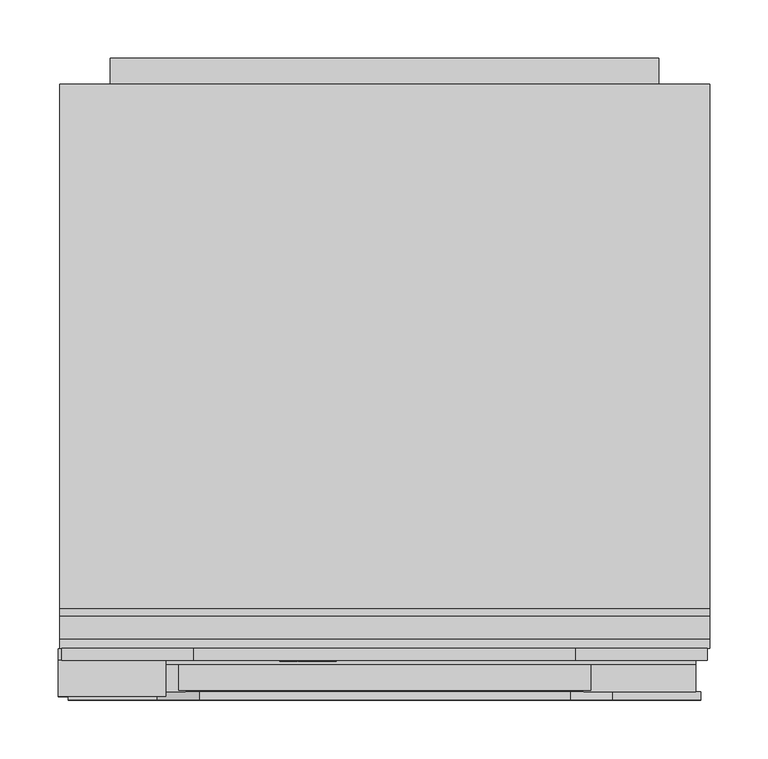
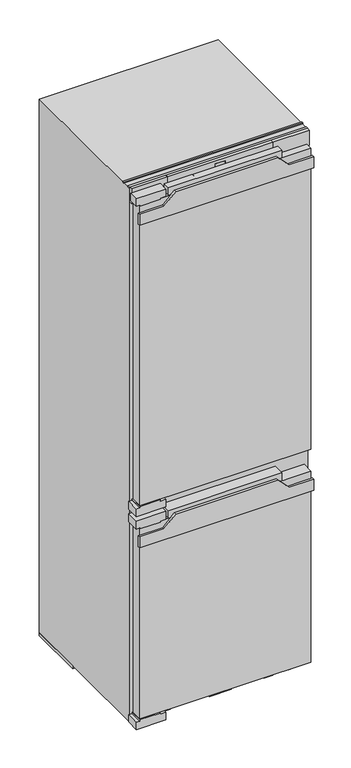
"""IFC4 building model written with IfcOpenShell, lengths in millimetres: proxy geometry, 11782010_CH_KFN7734D_LI : 38773410_CH_11782010_KFN7734D_LI."""

from ifc_helpers import new_model, si_unit, point, frame, frame_2d, origin, origin_with_axes, place, context, project, spatial, polyline, circle_curve, ellipse_curve, trimmed, segment, composite_curve, outline, extrude, faceted_brep, source, transform, mapped, element, save
from ifc_brep_helpers import plane_surface, cylinder_surface, revolved_surface, extruded_surface, advanced_brep


def specialty_equipment_14b27e45(model_context):
    return source(origin(), model_context, "Body", "SolidModel", [
        advanced_brep(
        [(-46.64, 33.0, 1742.896), (-46.64, 33.0, 1743.704), (-41.288, 33.0, 1743.704), (-50.6, 33.0, 1743.704), (-48.4, 33.0, 1741.0), (-41.424, 33.0, 1742.896), (-43.84, 33.0, 1742.896), (-45.744, 33.0, 1742.0), (-46.64, 33.0, 1744.728), (-46.64, 33.0, 1745.6), (-45.272, 33.0, 1745.6), (-45.272, 33.0, 1744.728), (-46.64, 34.0, 1742.896), (-45.744, 34.0, 1742.0), (-43.84, 34.0, 1742.896), (-41.424, 34.0, 1742.896), (-48.4, 34.0, 1741.0), (-50.6, 34.0, 1743.704), (-41.288, 34.0, 1743.704), (-46.64, 34.0, 1743.704), (-46.64, 34.0, 1744.728), (-45.272, 34.0, 1744.728), (-45.272, 34.0, 1745.6), (-46.64, 34.0, 1745.6)],
        [
            (0, 1),
            (1, 2),
            (2, 3, ellipse_curve(frame((-45.944, 33.0, 1743.704), z_axis=(0.0, -1.0, 0.0), x_axis=(-1.0, 0.0, 0.0)), 4.656, 3.848)),
            (3, 4, circle_curve(frame((-47.5039564, 33.0, 1743.976), z_axis=(0.0, -1.0, 0.0), x_axis=(0.0, 0.0, -1.0)), 3.1079688)),
            (4, 5, circle_curve(frame((-46.0372064, 33.0, 1746.088), z_axis=(0.0, -1.0, 0.0), x_axis=(0.0, 0.0, -1.0)), 5.6098607)),
            (5, 6),
            (6, 7, circle_curve(frame((-45.3529412, 33.0, 1743.64), z_axis=(0.0, 1.0, 0.0), x_axis=(0.0, 0.0, -1.0)), 1.6859795)),
            (7, 0, circle_curve(frame((-45.744, 33.0, 1742.896), z_axis=(0.0, 1.0, 0.0), x_axis=(0.0, 0.0, -1.0)), 0.896)),
            (8, 9),
            (9, 10, circle_curve(frame((-45.956, 33.0, 1745.6), z_axis=(0.0, 1.0, 0.0), x_axis=(0.0, 0.0, -1.0)), 0.684)),
            (10, 11),
            (11, 8),
            (12, 13, circle_curve(frame((-45.744, 34.0, 1742.896), z_axis=(0.0, -1.0, 0.0), x_axis=(0.0, 0.0, -1.0)), 0.896)),
            (13, 14, circle_curve(frame((-45.3529412, 34.0, 1743.64), z_axis=(0.0, -1.0, 0.0), x_axis=(0.0, 0.0, -1.0)), 1.6859795)),
            (14, 15),
            (15, 16, circle_curve(frame((-46.0372064, 34.0, 1746.088), z_axis=(0.0, 1.0, 0.0), x_axis=(0.0, 0.0, -1.0)), 5.6098607)),
            (16, 17, circle_curve(frame((-47.5039564, 34.0, 1743.976), z_axis=(0.0, 1.0, 0.0), x_axis=(0.0, 0.0, -1.0)), 3.1079688)),
            (17, 18, ellipse_curve(frame((-45.944, 34.0, 1743.704), z_axis=(0.0, 1.0, 0.0), x_axis=(-1.0, 0.0, 0.0)), 4.656, 3.848)),
            (18, 19),
            (19, 12),
            (20, 21),
            (21, 22),
            (22, 23, circle_curve(frame((-45.956, 34.0, 1745.6), z_axis=(0.0, -1.0, 0.0), x_axis=(0.0, 0.0, -1.0)), 0.684)),
            (23, 20),
            (0, 12),
            (19, 1),
            (18, 2),
            (5, 15),
            (14, 6),
            (17, 3),
            (13, 7),
            (16, 4),
            (8, 20),
            (23, 9),
            (22, 10),
            (21, 11),
        ],
        [
            plane_surface(frame((-46.64, 33.0, 1743.704), z_axis=(0.0, -1.0, 0.0), x_axis=(0.0, 0.0, 1.0))),
            plane_surface(frame((-46.64, 34.0, 1743.704), z_axis=(0.0, 1.0, 0.0), x_axis=(0.0, 0.0, -1.0))),
            plane_surface(frame((-46.64, 33.0, 1742.896), z_axis=(1.0, 0.0, 0.0), x_axis=(0.0, 1.0, 0.0))),
            plane_surface(frame((-46.64, 33.0, 1743.704), z_axis=(0.0, 0.0, -1.0), x_axis=(0.0, 1.0, 0.0))),
            plane_surface(frame((-41.424, 33.0, 1742.896), z_axis=(0.0, 0.0, 1.0), x_axis=(0.0, 1.0, 0.0))),
            extruded_surface(trimmed(ellipse_curve(frame((-45.944, 35.0, 1743.704), z_axis=(0.0, -1.0, 0.0), x_axis=(-1.0, 0.0, 0.0)), 4.656, 3.848), [point((-41.288, 35.0, 1743.704))], [point((-50.6, 35.0, 1743.704))], True, "CARTESIAN"), (0.0, -1.0, 0.0), 1.0),
            revolved_surface(polyline([(-45.3529412, 34.0, 1741.9540205), (-45.3529412, 33.0, 1741.9540205)]), (-45.3529412, 34.0, 1743.64), (0.0, 1.0, 0.0)),
            revolved_surface(polyline([(-45.744, 34.0, 1742.0), (-45.744, 33.0, 1742.0)]), (-45.744, 34.0, 1742.896), (0.0, 1.0, 0.0)),
            cylinder_surface(frame((-47.5039564, 34.0, 1743.976), z_axis=(0.0, -1.0, 0.0), x_axis=(0.0, 0.0, -1.0)), 3.1079688),
            cylinder_surface(frame((-46.0372064, 34.0, 1746.088), z_axis=(0.0, -1.0, 0.0), x_axis=(0.0, 0.0, -1.0)), 5.6098607),
            plane_surface(frame((-46.64, 33.0, 1744.728), z_axis=(1.0, 0.0, 0.0), x_axis=(0.0, 1.0, 0.0))),
            revolved_surface(polyline([(-45.956, 34.0, 1744.916), (-45.956, 33.0, 1744.916)]), (-45.956, 34.0, 1745.6), (0.0, 1.0, 0.0)),
            plane_surface(frame((-45.272, 33.0, 1745.6), z_axis=(-1.0, 0.0, 0.0), x_axis=(0.0, 1.0, 0.0))),
            plane_surface(frame((-45.272, 33.0, 1744.728), z_axis=(0.0, 0.0, 1.0), x_axis=(0.0, 1.0, 0.0))),
        ],
        [
            (0, [[1, 2, 3, 4, 5, 6, 7, 8], [9, 10, 11, 12]]),
            (1, [[13, 14, 15, 16, 17, 18, 19, 20], [21, 22, 23, 24]]),
            (2, [[-1, 25, -20, 26]]),
            (3, [[-2, -26, -19, 27]]),
            (4, [[-6, 28, -15, 29]]),
            (5, [[-3, -27, -18, 30]]),
            (6, [[-7, -29, -14, 31]]),
            (7, [[-8, -31, -13, -25]]),
            (8, [[-4, -30, -17, 32]]),
            (9, [[-5, -32, -16, -28]]),
            (10, [[-9, 33, -24, 34]]),
            (11, [[-10, -34, -23, 35]]),
            (12, [[-11, -35, -22, 36]]),
            (13, [[-12, -36, -21, -33]]),
        ],
    ),
        advanced_brep(
        [(-63.336, 33.0, 1742.896), (-63.336, 33.0, 1743.704), (-57.984, 33.0, 1743.704), (-67.296, 33.0, 1743.704), (-65.096, 33.0, 1741.0), (-58.12, 33.0, 1742.896), (-60.536, 33.0, 1742.896), (-62.44, 33.0, 1742.0), (-63.336, 33.0, 1744.728), (-63.336, 33.0, 1745.6), (-61.968, 33.0, 1745.6), (-61.968, 33.0, 1744.728), (-63.336, 34.0, 1742.896), (-62.44, 34.0, 1742.0), (-60.536, 34.0, 1742.896), (-58.12, 34.0, 1742.896), (-65.096, 34.0, 1741.0), (-67.296, 34.0, 1743.704), (-57.984, 34.0, 1743.704), (-63.336, 34.0, 1743.704), (-63.336, 34.0, 1744.728), (-61.968, 34.0, 1744.728), (-61.968, 34.0, 1745.6), (-63.336, 34.0, 1745.6)],
        [
            (0, 1),
            (1, 2),
            (2, 3, ellipse_curve(frame((-62.64, 33.0, 1743.704), z_axis=(0.0, -1.0, 0.0), x_axis=(-1.0, 0.0, 0.0)), 4.656, 3.848)),
            (3, 4, circle_curve(frame((-64.1999564, 33.0, 1743.976), z_axis=(0.0, -1.0, 0.0), x_axis=(0.0, 0.0, -1.0)), 3.1079688)),
            (4, 5, circle_curve(frame((-62.7332064, 33.0, 1746.088), z_axis=(0.0, -1.0, 0.0), x_axis=(0.0, 0.0, -1.0)), 5.6098607)),
            (5, 6),
            (6, 7, circle_curve(frame((-62.0489412, 33.0, 1743.64), z_axis=(0.0, 1.0, 0.0), x_axis=(0.0, 0.0, -1.0)), 1.6859795)),
            (7, 0, circle_curve(frame((-62.44, 33.0, 1742.896), z_axis=(0.0, 1.0, 0.0), x_axis=(0.0, 0.0, -1.0)), 0.896)),
            (8, 9),
            (9, 10, circle_curve(frame((-62.652, 33.0, 1745.6), z_axis=(0.0, 1.0, 0.0), x_axis=(0.0, 0.0, -1.0)), 0.684)),
            (10, 11),
            (11, 8),
            (12, 13, circle_curve(frame((-62.44, 34.0, 1742.896), z_axis=(0.0, -1.0, 0.0), x_axis=(0.0, 0.0, -1.0)), 0.896)),
            (13, 14, circle_curve(frame((-62.0489412, 34.0, 1743.64), z_axis=(0.0, -1.0, 0.0), x_axis=(0.0, 0.0, -1.0)), 1.6859795)),
            (14, 15),
            (15, 16, circle_curve(frame((-62.7332064, 34.0, 1746.088), z_axis=(0.0, 1.0, 0.0), x_axis=(0.0, 0.0, -1.0)), 5.6098607)),
            (16, 17, circle_curve(frame((-64.1999564, 34.0, 1743.976), z_axis=(0.0, 1.0, 0.0), x_axis=(0.0, 0.0, -1.0)), 3.1079688)),
            (17, 18, ellipse_curve(frame((-62.64, 34.0, 1743.704), z_axis=(0.0, 1.0, 0.0), x_axis=(-1.0, 0.0, 0.0)), 4.656, 3.848)),
            (18, 19),
            (19, 12),
            (20, 21),
            (21, 22),
            (22, 23, circle_curve(frame((-62.652, 34.0, 1745.6), z_axis=(0.0, -1.0, 0.0), x_axis=(0.0, 0.0, -1.0)), 0.684)),
            (23, 20),
            (0, 12),
            (19, 1),
            (18, 2),
            (5, 15),
            (14, 6),
            (17, 3),
            (13, 7),
            (16, 4),
            (8, 20),
            (23, 9),
            (22, 10),
            (21, 11),
        ],
        [
            plane_surface(frame((-63.336, 33.0, 1743.704), z_axis=(0.0, -1.0, 0.0), x_axis=(0.0, 0.0, 1.0))),
            plane_surface(frame((-63.336, 34.0, 1743.704), z_axis=(0.0, 1.0, 0.0), x_axis=(0.0, 0.0, -1.0))),
            plane_surface(frame((-63.336, 33.0, 1742.896), z_axis=(1.0, 0.0, 0.0), x_axis=(0.0, 1.0, 0.0))),
            plane_surface(frame((-63.336, 33.0, 1743.704), z_axis=(0.0, 0.0, -1.0), x_axis=(0.0, 1.0, 0.0))),
            plane_surface(frame((-58.12, 33.0, 1742.896), z_axis=(0.0, 0.0, 1.0), x_axis=(0.0, 1.0, 0.0))),
            extruded_surface(trimmed(ellipse_curve(frame((-62.64, 35.0, 1743.704), z_axis=(0.0, -1.0, 0.0), x_axis=(-1.0, 0.0, 0.0)), 4.656, 3.848), [point((-57.984, 35.0, 1743.704))], [point((-67.296, 35.0, 1743.704))], True, "CARTESIAN"), (0.0, -1.0, 0.0), 1.0),
            revolved_surface(polyline([(-62.0489412, 34.0, 1741.9540205), (-62.0489412, 33.0, 1741.9540205)]), (-62.0489412, 34.0, 1743.64), (0.0, 1.0, 0.0)),
            revolved_surface(polyline([(-62.44, 34.0, 1742.0), (-62.44, 33.0, 1742.0)]), (-62.44, 34.0, 1742.896), (0.0, 1.0, 0.0)),
            cylinder_surface(frame((-64.1999564, 34.0, 1743.976), z_axis=(0.0, -1.0, 0.0), x_axis=(0.0, 0.0, -1.0)), 3.1079688),
            cylinder_surface(frame((-62.7332064, 34.0, 1746.088), z_axis=(0.0, -1.0, 0.0), x_axis=(0.0, 0.0, -1.0)), 5.6098607),
            plane_surface(frame((-63.336, 33.0, 1744.728), z_axis=(1.0, 0.0, 0.0), x_axis=(0.0, 1.0, 0.0))),
            revolved_surface(polyline([(-62.652, 34.0, 1744.916), (-62.652, 33.0, 1744.916)]), (-62.652, 34.0, 1745.6), (0.0, 1.0, 0.0)),
            plane_surface(frame((-61.968, 33.0, 1745.6), z_axis=(-1.0, 0.0, 0.0), x_axis=(0.0, 1.0, 0.0))),
            plane_surface(frame((-61.968, 33.0, 1744.728), z_axis=(0.0, 0.0, 1.0), x_axis=(0.0, 1.0, 0.0))),
        ],
        [
            (0, [[1, 2, 3, 4, 5, 6, 7, 8], [9, 10, 11, 12]]),
            (1, [[13, 14, 15, 16, 17, 18, 19, 20], [21, 22, 23, 24]]),
            (2, [[-1, 25, -20, 26]]),
            (3, [[-2, -26, -19, 27]]),
            (4, [[-6, 28, -15, 29]]),
            (5, [[-3, -27, -18, 30]]),
            (6, [[-7, -29, -14, 31]]),
            (7, [[-8, -31, -13, -25]]),
            (8, [[-4, -30, -17, 32]]),
            (9, [[-5, -32, -16, -28]]),
            (10, [[-9, 33, -24, 34]]),
            (11, [[-10, -34, -23, 35]]),
            (12, [[-11, -35, -22, 36]]),
            (13, [[-12, -36, -21, -33]]),
        ],
    ),
        extrude(outline(polyline([(1748.528, -72.08), (1747.232, -71.472), (1748.496, -68.76), (1749.792, -69.36), (1748.528, -72.08)])), frame((0.0, 33.0, 0.0), z_axis=(0.0, 1.0, 0.0), x_axis=(0.0, 0.0, 1.0)), (0.0, 0.0, 1.0), 1.0),
        extrude(outline(polyline([(1747.056, -74.056), (1745.624, -74.056), (1745.624, -73.104), (1742.344, -73.104), (1742.344, -74.056), (1741.0, -74.056), (1741.0, -67.744), (1742.344, -67.744), (1742.344, -68.672), (1747.056, -68.672), (1747.056, -74.056)])), frame((0.0, 33.0, 0.0), z_axis=(0.0, 1.0, 0.0), x_axis=(0.0, 0.0, 1.0)), (0.0, 0.0, 1.0), 1.0),
        extrude(outline(polyline([(1747.696, -57.536), (1747.696, -56.576), (1742.344, -56.576), (1742.344, -57.536), (1741.0, -57.536), (1741.0, -51.048), (1742.344, -51.048), (1742.344, -52.032), (1749.0, -52.032), (1749.0, -57.536), (1747.696, -57.536)])), frame((0.0, 33.0, 0.0), z_axis=(0.0, 1.0, 0.0), x_axis=(0.0, 0.0, 1.0)), (0.0, 0.0, 1.0), 1.0),
        extrude(outline(polyline([(1747.696, -90.0), (1747.696, -89.032), (1742.344, -89.032), (1742.344, -90.0), (1741.0, -90.0), (1741.0, -86.48), (1742.344, -86.48), (1742.344, -87.44), (1745.7471247, -87.44), (1741.0, -83.864), (1745.8152223, -80.272), (1742.344, -80.272), (1742.344, -81.256), (1741.0, -81.256), (1741.0, -74.872), (1742.344, -74.872), (1742.344, -75.888), (1747.696, -75.888), (1747.696, -74.872), (1749.0, -74.872), (1749.0, -79.744), (1746.0, -82.08), (1749.0, -84.424), (1749.0, -90.0), (1747.696, -90.0)])), frame((0.0, 33.0, 0.0), z_axis=(0.0, 1.0, 0.0), x_axis=(0.0, 0.0, 1.0)), (0.0, 0.0, 1.0), 1.0),
        extrude(outline(polyline([(607.0, 271.0), (643.0, 271.0), (643.0, 195.0), (679.0, 159.0), (679.0, -159.0), (643.0, -195.0), (643.0, -271.0), (607.0, -271.0), (607.0, 271.0)])), frame((0.0, 0.0, 0.0), z_axis=(0.0, 1.0, 0.0), x_axis=(0.0, 0.0, 1.0)), (0.0, 0.0, 1.0), 7.0),
        extrude(outline(polyline([(1669.0, 271.0), (1705.0, 271.0), (1705.0, 195.0), (1741.0, 159.0), (1741.0, -159.0), (1705.0, -195.0), (1705.0, -271.0), (1669.0, -271.0), (1669.0, 271.0)])), frame((0.0, 0.0, 0.0), z_axis=(0.0, 1.0, 0.0), x_axis=(0.0, 0.0, 1.0)), (0.0, 0.0, 1.0), 7.0),
        extrude(outline(polyline([(736.0, -205.5), (740.0, -205.5), (740.0, -269.5), (736.0, -269.5), (736.0, -279.5), (711.0, -279.5), (711.0, -187.5), (736.0, -187.5), (736.0, -205.5)])), frame((0.0, 3.0, 0.0), z_axis=(0.0, 1.0, 0.0), x_axis=(0.0, 0.0, 1.0)), (0.0, 0.0, 1.0), 41.0),
        extrude(outline(polyline([(176.5, 8.0), (-176.5, 8.0), (-176.5, 30.0), (176.5, 30.0), (176.5, 8.0)])), frame((0.0, 0.0, 1730.0), z_axis=(0.0, 0.0, 1.0), x_axis=(1.0, 0.0, 0.0)), (0.0, 0.0, 1.0), 25.0),
        extrude(outline(polyline([(7.0, 740.0), (7.0, 1730.0), (30.0, 1730.0), (30.0, 1715.0), (44.0, 1715.0), (44.0, 740.0), (7.0, 740.0)])), frame((-266.5, 0.0, 0.0), z_axis=(1.0, 0.0, 0.0), x_axis=(0.0, 1.0, 0.0)), (0.0, 0.0, 1.0), 533.0),
        extrude(outline(polyline([(-176.5, 44.0), (176.5, 44.0), (176.5, 8.0), (-176.5, 8.0), (-176.5, 44.0)])), frame((0.0, 0.0, 667.0), z_axis=(0.0, 0.0, 1.0), x_axis=(1.0, 0.0, 0.0)), (0.0, 0.0, 1.0), 25.0),
        extrude(outline(polyline([(696.0, -279.5), (670.0, -279.5), (670.0, -269.5), (667.0, -269.5), (667.0, -205.5), (670.0, -205.5), (670.0, -187.5), (696.0, -187.5), (696.0, -279.5)])), frame((0.0, 3.0, 0.0), z_axis=(0.0, 1.0, 0.0), x_axis=(0.0, 0.0, 1.0)), (0.0, 0.0, 1.0), 41.0),
        extrude(outline(polyline([(34.0, -205.5), (38.0, -205.5), (38.0, -269.5), (34.0, -269.5), (34.0, -279.5), (10.0, -279.5), (10.0, -187.5), (34.0, -187.5), (34.0, -205.5)])), frame((0.0, 3.0, 0.0), z_axis=(0.0, 1.0, 0.0), x_axis=(0.0, 0.0, 1.0)), (0.0, 0.0, 1.0), 41.0),
        extrude(outline(polyline([(1757.0, -279.5), (1733.0, -279.5), (1733.0, -269.5), (1730.0, -269.5), (1730.0, -205.5), (1733.0, -205.5), (1733.0, -187.5), (1757.0, -187.5), (1757.0, -279.5)])), frame((0.0, 3.0, 0.0), z_axis=(0.0, 1.0, 0.0), x_axis=(0.0, 0.0, 1.0)), (0.0, 0.0, 1.0), 31.0),
        extrude(outline(polyline([(-266.5, 44.0), (266.5, 44.0), (266.5, 7.0), (-266.5, 7.0), (-266.5, 44.0)])), frame((0.0, 0.0, 38.0), z_axis=(0.0, 0.0, 1.0), x_axis=(1.0, 0.0, 0.0)), (0.0, 0.0, 1.0), 629.0),
        faceted_brep([(163.5, 34.0, 1770.0), (-163.5, 34.0, 1770.0), (-163.5, 34.0, 1721.0), (163.5, 34.0, 1721.0), (15.0, 34.0, 1761.0), (15.0, 34.0, 1731.0), (-15.0, 34.0, 1731.0), (-15.0, 34.0, 1761.0), (163.5, 44.0, 1770.0), (163.5, 44.0, 1721.0), (-163.5, 44.0, 1721.0), (-163.5, 44.0, 1770.0), (15.0, 35.0, 1761.0), (-15.0, 35.0, 1761.0), (-15.0, 35.0, 1731.0), (15.0, 35.0, 1731.0)], [[[0, 1, 2, 3], [4, 5, 6, 7]], [[8, 9, 10, 11]], [[0, 3, 9, 8]], [[3, 2, 10, 9]], [[2, 1, 11, 10]], [[1, 0, 8, 11]], [[12, 13, 14, 15]], [[12, 15, 5, 4]], [[15, 14, 6, 5]], [[14, 13, 7, 6]], [[13, 12, 4, 7]]]),
        extrude(outline(polyline([(163.5, 44.0), (276.5, 44.0), (276.5, 34.0), (163.5, 34.0), (163.5, 44.0)])), frame((0.0, 0.0, 1721.0), z_axis=(0.0, 0.0, 1.0), x_axis=(1.0, 0.0, 0.0)), (0.0, 0.0, 1.0), 49.0),
        extrude(outline(polyline([(-276.5, 44.0), (-163.5, 44.0), (-163.5, 34.0), (-276.5, 34.0), (-276.5, 44.0)])), frame((0.0, 0.0, 1721.0), z_axis=(0.0, 0.0, 1.0), x_axis=(1.0, 0.0, 0.0)), (0.0, 0.0, 1.0), 49.0),
        extrude(outline(polyline([(-15.0, 35.0), (15.0, 35.0), (15.0, 34.0), (-15.0, 34.0), (-15.0, 35.0)])), frame((0.0, 0.0, 1731.0), z_axis=(0.0, 0.0, 1.0), x_axis=(1.0, 0.0, 0.0)), (0.0, 0.0, 1.0), 30.0),
        extrude(outline(polyline([(1647.0, -235.0), (27.0, -235.0), (27.0, 235.0), (130.0, 235.0), (130.0, 180.0), (160.0, 180.0), (160.0, 235.0), (1647.0, 235.0), (1647.0, -235.0)])), frame((0.0, 528.0, 0.0), z_axis=(0.0, 1.0, 0.0), x_axis=(0.0, 0.0, 1.0)), (0.0, 0.0, 1.0), 22.0),
        extrude(outline(polyline([(-144.929185, 52.0), (-174.0, 52.0), (-194.6983363, 348.0), (-165.6275213, 348.0), (-144.929185, 52.0)])), origin_with_axes(), (0.0, 0.0, 1.0), 10.0),
        extrude(outline(polyline([(144.929185, 52.0), (165.6275213, 348.0), (194.6983363, 348.0), (174.0, 52.0), (144.929185, 52.0)])), origin_with_axes(), (0.0, 0.0, 1.0), 10.0),
        extrude(outline(polyline([(541.4384039, 149.874164), (548.6647626, 149.874164), (548.6647626, 139.824714), (541.2826236, 139.824714), (541.2826236, 141.0836119), (547.4056247, 141.0836119), (547.4056247, 144.3750411), (541.7614845, 144.3750411), (541.7614845, 145.6249589), (547.4056247, 145.6249589), (547.4056247, 148.6148402), (541.4384039, 148.6148402), (541.4384039, 149.874164)])), frame((193.5, 0.0, 0.0), z_axis=(1.0, 0.0, 0.0), x_axis=(0.0, 1.0, 0.0)), (0.0, 0.0, 1.0), 1.0),
        extrude(outline(polyline([(538.1383052, 149.8716162), (539.399354, 149.8716162), (539.399354, 139.824714), (533.1225656, 139.824714), (533.1225656, 141.0927041), (538.1383052, 141.0927041), (538.1383052, 149.8716162)])), frame((193.5, 0.0, 0.0), z_axis=(1.0, 0.0, 0.0), x_axis=(0.0, 1.0, 0.0)), (0.0, 0.0, 1.0), 1.0),
        advanced_brep(
        [(232.0, 528.0, 145.0), (217.0, 528.0, 145.0), (232.0, 549.5, 145.0), (217.0, 534.5, 145.0), (194.5, 549.5, 145.0), (194.5, 534.5, 145.0)],
        [
            (0, 1, circle_curve(frame((224.5, 528.0, 145.0), z_axis=(0.0, -1.0, 0.0), x_axis=(-1.0, 0.0, 0.0)), 7.5)),
            (1, 0, circle_curve(frame((224.5, 528.0, 145.0), z_axis=(0.0, -1.0, 0.0), x_axis=(-1.0, 0.0, 0.0)), 7.5)),
            (0, 2),
            (2, 3, ellipse_curve(frame((224.5, 542.0, 145.0), z_axis=(0.7071067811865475, -0.7071067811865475, 0.0), x_axis=(-0.7071067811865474, -0.7071067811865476, 0.0)), 10.6066017, 7.5)),
            (3, 1),
            (3, 2, ellipse_curve(frame((224.5, 542.0, 145.0), z_axis=(0.7071067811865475, -0.7071067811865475, 0.0), x_axis=(-0.7071067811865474, -0.7071067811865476, 0.0)), 10.6066017, 7.5)),
            (4, 5, circle_curve(frame((194.5, 542.0, 145.0), z_axis=(-1.0, 0.0, 0.0), x_axis=(0.0, -1.0, 0.0)), 7.5)),
            (5, 4, circle_curve(frame((194.5, 542.0, 145.0), z_axis=(-1.0, 0.0, 0.0), x_axis=(0.0, -1.0, 0.0)), 7.5)),
            (2, 4),
            (5, 3),
        ],
        [
            plane_surface(frame((224.5, 528.0, 145.0), z_axis=(0.0, -1.0, 0.0), x_axis=(0.0, 0.0, 1.0))),
            cylinder_surface(frame((224.5, 528.0, 145.0), z_axis=(0.0, -1.0, 0.0), x_axis=(-1.0, 0.0, 0.0)), 7.5),
            plane_surface(frame((194.5, 542.0, 145.0), z_axis=(-1.0, 0.0, 0.0), x_axis=(0.0, 0.0, 1.0))),
            cylinder_surface(frame((224.5, 542.0, 145.0), z_axis=(1.0, 0.0, 0.0), x_axis=(0.0, -1.0, 0.0)), 7.5),
        ],
        [
            (0, [[1, 2]]),
            (1, [[-1, 3, 4, 5]]),
            (1, [[-2, -5, 6, -3]]),
            (2, [[7, 8]]),
            (3, [[-4, 9, -8, 10]]),
            (3, [[-6, -10, -7, -9]]),
        ],
    ),
        extrude(outline(polyline([(-34.0, 44.0), (34.0, 44.0), (34.0, 35.0), (-34.0, 35.0), (-34.0, 44.0)])), frame((0.0, 0.0, 13.0), z_axis=(0.0, 0.0, 1.0), x_axis=(1.0, 0.0, 0.0)), (0.0, 0.0, 1.0), 19.0),
        extrude(outline(polyline([(278.5, 52.0), (278.5, 44.0), (-278.5, 44.0), (-278.5, 52.0), (278.5, 52.0)])), frame((0.0, 0.0, 1767.0), z_axis=(0.0, 0.0, 1.0), x_axis=(1.0, 0.0, 0.0)), (0.0, 0.0, 1.0), 3.0),
        extrude(outline(polyline([(278.5, 78.0), (278.5, 72.0), (-278.5, 72.0), (-278.5, 78.0), (278.5, 78.0)])), frame((0.0, 0.0, 1767.0), z_axis=(0.0, 0.0, 1.0), x_axis=(1.0, 0.0, 0.0)), (0.0, 0.0, 1.0), 3.0),
        extrude(outline(polyline([(-242.5, 44.0), (-242.5, 490.0), (242.5, 490.0), (242.5, 44.0), (-242.5, 44.0)])), frame((0.0, 0.0, 960.0), z_axis=(0.0, 0.0, 1.0), x_axis=(1.0, 0.0, 0.0)), (0.0, 0.0, 1.0), 3.0),
        extrude(outline(polyline([(-217.5, 312.0), (-217.5, 451.0), (217.5, 451.0), (217.5, 312.0), (-217.5, 312.0)])), frame((0.0, 0.0, 93.0), z_axis=(0.0, 0.0, 1.0), x_axis=(1.0, 0.0, 0.0)), (0.0, 0.0, 1.0), 181.0),
        extrude(outline(composite_curve([segment(trimmed(circle_curve(frame_2d((228.0, 64.0)), 11.0), [point((239.0, 64.0))], [point((217.0, 64.0))], False, "CARTESIAN"), True, "CONTINUOUS"), segment(trimmed(circle_curve(frame_2d((228.0, 64.0)), 11.0), [point((217.0, 64.0))], [point((239.0, 64.0))], False, "CARTESIAN"), True, "CONTINUOUS")], self_intersect=False)), origin_with_axes(), (0.0, 0.0, 1.0), 10.0),
        extrude(outline(composite_curve([segment(trimmed(circle_curve(frame_2d((-228.0, 64.0)), 11.0), [point((-217.0, 64.0))], [point((-239.0, 64.0))], False, "CARTESIAN"), True, "CONTINUOUS"), segment(trimmed(circle_curve(frame_2d((-228.0, 64.0)), 11.0), [point((-239.0, 64.0))], [point((-217.0, 64.0))], False, "CARTESIAN"), True, "CONTINUOUS")], self_intersect=False)), origin_with_axes(), (0.0, 0.0, 1.0), 10.0),
        extrude(outline(polyline([(278.5, 528.0), (278.5, 348.0), (-278.5, 348.0), (-278.5, 528.0), (278.5, 528.0)])), origin_with_axes(), (0.0, 0.0, 1.0), 10.0),
        faceted_brep([(278.5, 528.0, 1767.0), (-278.5, 528.0, 1767.0), (-278.5, 44.0, 1767.0), (278.5, 44.0, 1767.0), (278.5, 528.0, 10.0), (278.5, 44.0, 10.0), (-278.5, 44.0, 10.0), (-278.5, 528.0, 10.0), (242.5, 44.0, 1692.0), (242.5, 44.0, 765.0), (-242.5, 44.0, 765.0), (-242.5, 44.0, 1692.0), (217.5, 44.0, 633.0), (217.5, 44.0, 93.0), (-217.5, 44.0, 93.0), (-217.5, 44.0, 633.0), (242.5, 490.0, 1692.0), (-242.5, 490.0, 1692.0), (-242.5, 490.0, 765.0), (242.5, 490.0, 765.0), (217.5, 451.0, 633.0), (217.5, 451.0, 93.0), (-217.5, 451.0, 633.0), (-217.5, 451.0, 93.0)], [[[0, 1, 2, 3]], [[4, 5, 6, 7]], [[1, 0, 4, 7]], [[2, 1, 7, 6]], [[3, 2, 6, 5], [8, 9, 10, 11], [12, 13, 14, 15]], [[0, 3, 5, 4]], [[16, 17, 18, 19]], [[16, 19, 9, 8]], [[19, 18, 10, 9]], [[18, 17, 11, 10]], [[17, 16, 8, 11]], [[20, 21, 13, 12]], [[22, 15, 14, 23]], [[21, 20, 22, 23]], [[13, 21, 23, 14]], [[20, 12, 15, 22]]]),
    ])


if __name__ == "__main__":
    model = new_model("IFC4")
    model_context = context("Model", 3, world=origin())
    ifc_project = project(units=[si_unit("LENGTHUNIT", "METRE", prefix="MILLI")], contexts=[model_context])
    site = spatial("IfcSite", under=ifc_project)
    building = spatial("IfcBuilding", under=site)
    placement = place(None, origin())
    specialty_equipment_shape = specialty_equipment_14b27e45(model_context)
    element("IfcBuildingElementProxy", 1, Name="11782010_CH_KFN7734D_LI : 38773410_CH_11782010_KFN7734D_LI", ObjectType="11782010_CH_KFN7734D_LI : 38773410_CH_11782010_KFN7734D_LI", at=placement, inside=building, context=model_context, shape_type="MappedRepresentation", body=[
        mapped(specialty_equipment_shape, transform((0.0, 0.0, 0.0), x_axis=(1.0, 0.0, 0.0), y_axis=(0.0, 1.0, 0.0), z_axis=(0.0, 0.0, 1.0))),
    ])
    save(model, "model.ifc")
